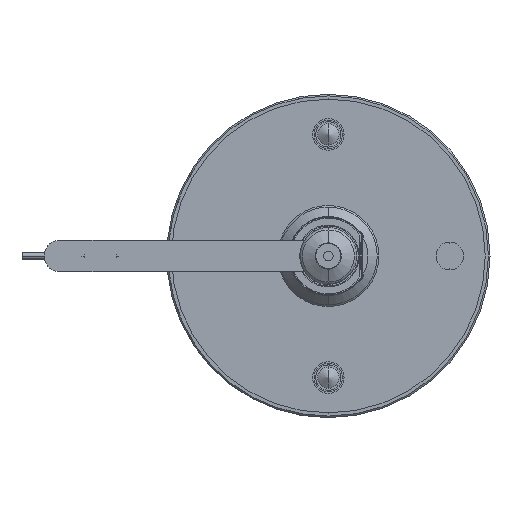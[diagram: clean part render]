
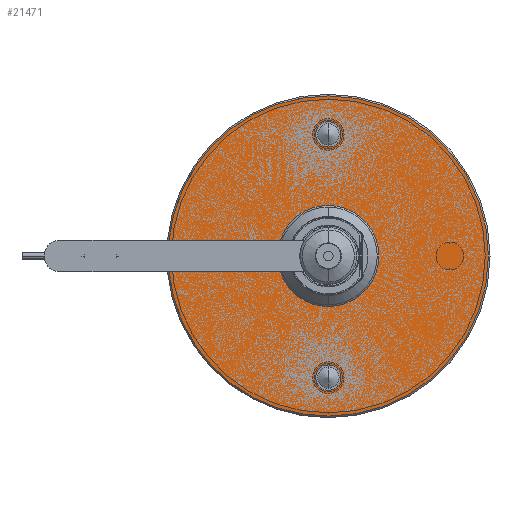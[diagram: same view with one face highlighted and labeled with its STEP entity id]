
A CAD part, front view. The second image highlights one B-rep face of the part: STEP entity #21471.
In plain terms, the highlighted planar face has unit normal (0, -1, 0).
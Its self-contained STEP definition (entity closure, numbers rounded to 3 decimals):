
#437 = EDGE_CURVE ( 'NONE', #11937, #3138, #23549, .T. ) ;
#842 = VECTOR ( 'NONE', #20676, 1000. ) ;
#1283 = EDGE_LOOP ( 'NONE', ( #20259, #2513, #19792, #15354, #1764, #14132, #1385, #19518 ) ) ;
#1385 = ORIENTED_EDGE ( 'NONE', *, *, #4949, .F. ) ;
#1641 = VERTEX_POINT ( 'NONE', #8212 ) ;
#1671 = VERTEX_POINT ( 'NONE', #6217 ) ;
#1764 = ORIENTED_EDGE ( 'NONE', *, *, #5768, .F. ) ;
#1954 = EDGE_CURVE ( 'NONE', #14469, #13336, #2814, .T. ) ;
#2080 = LINE ( 'NONE', #9669, #842 ) ;
#2332 = FACE_BOUND ( 'NONE', #14749, .T. ) ;
#2513 = ORIENTED_EDGE ( 'NONE', *, *, #3082, .T. ) ;
#2561 = DIRECTION ( 'NONE',  ( 0., -1., 0. ) ) ;
#2814 = CIRCLE ( 'NONE', #22781, 16. ) ;
#2880 = EDGE_CURVE ( 'NONE', #7173, #11901, #2080, .T. ) ;
#3082 = EDGE_CURVE ( 'NONE', #21057, #11567, #24406, .T. ) ;
#3138 = VERTEX_POINT ( 'NONE', #6025 ) ;
#3184 = DIRECTION ( 'NONE',  ( 0., 0., 1. ) ) ;
#3300 = CARTESIAN_POINT ( 'NONE',  ( 0., 38.122, -38.5 ) ) ;
#3535 = DIRECTION ( 'NONE',  ( 0., 0., -1. ) ) ;
#4918 = CARTESIAN_POINT ( 'NONE',  ( -50.7, 38.122, 0. ) ) ;
#4949 = EDGE_CURVE ( 'NONE', #23321, #14469, #19071, .T. ) ;
#5253 = EDGE_CURVE ( 'NONE', #1641, #14925, #7103, .T. ) ;
#5396 = DIRECTION ( 'NONE',  ( 0., 0., -1. ) ) ;
#5496 = EDGE_CURVE ( 'NONE', #14925, #1641, #9909, .T. ) ;
#5500 = VECTOR ( 'NONE', #24119, 1000. ) ;
#5516 = CARTESIAN_POINT ( 'NONE',  ( 0., 38.122, 0. ) ) ;
#5657 = DIRECTION ( 'NONE',  ( 0., 0., 1. ) ) ;
#5768 = EDGE_CURVE ( 'NONE', #13336, #11901, #18302, .T. ) ;
#6025 = CARTESIAN_POINT ( 'NONE',  ( 0., 38.122, -34.5 ) ) ;
#6197 = DIRECTION ( 'NONE',  ( 0., 0., -1. ) ) ;
#6217 = CARTESIAN_POINT ( 'NONE',  ( -50.453, 38.122, -5. ) ) ;
#6839 = AXIS2_PLACEMENT_3D ( 'NONE', #7168, #14778, #3535 ) ;
#7103 = CIRCLE ( 'NONE', #19487, 4. ) ;
#7108 = LINE ( 'NONE', #9212, #5500 ) ;
#7168 = CARTESIAN_POINT ( 'NONE',  ( 0., 38.122, 0. ) ) ;
#7173 = VERTEX_POINT ( 'NONE', #9727 ) ;
#7257 = DIRECTION ( 'NONE',  ( 0., 0., 1. ) ) ;
#7350 = DIRECTION ( 'NONE',  ( 0., 0., 1. ) ) ;
#7524 = AXIS2_PLACEMENT_3D ( 'NONE', #9795, #24570, #17313 ) ;
#8077 = CARTESIAN_POINT ( 'NONE',  ( 0., 38.122, 0. ) ) ;
#8212 = CARTESIAN_POINT ( 'NONE',  ( 0., 38.122, 42.5 ) ) ;
#8340 = AXIS2_PLACEMENT_3D ( 'NONE', #3300, #10641, #14647 ) ;
#8581 = AXIS2_PLACEMENT_3D ( 'NONE', #4918, #12631, #3184 ) ;
#8790 = CARTESIAN_POINT ( 'NONE',  ( 0., 38.122, -42.5 ) ) ;
#9212 = CARTESIAN_POINT ( 'NONE',  ( -50.7, 38.122, -5. ) ) ;
#9669 = CARTESIAN_POINT ( 'NONE',  ( -50.7, 38.122, 5. ) ) ;
#9703 = AXIS2_PLACEMENT_3D ( 'NONE', #5516, #12877, #5396 ) ;
#9727 = CARTESIAN_POINT ( 'NONE',  ( -50.453, 38.122, 5. ) ) ;
#9789 = DIRECTION ( 'NONE',  ( 0., 0., -1. ) ) ;
#9795 = CARTESIAN_POINT ( 'NONE',  ( 0., 38.122, 0. ) ) ;
#9909 = CIRCLE ( 'NONE', #21894, 4. ) ;
#9925 = FACE_OUTER_BOUND ( 'NONE', #1283, .T. ) ;
#10274 = EDGE_CURVE ( 'NONE', #1671, #21057, #14079, .T. ) ;
#10401 = CIRCLE ( 'NONE', #12774, 50.7 ) ;
#10535 = ORIENTED_EDGE ( 'NONE', *, *, #12935, .F. ) ;
#10641 = DIRECTION ( 'NONE',  ( 0., -1., 0. ) ) ;
#11115 = EDGE_CURVE ( 'NONE', #1671, #23321, #7108, .T. ) ;
#11567 = VERTEX_POINT ( 'NONE', #23225 ) ;
#11901 = VERTEX_POINT ( 'NONE', #20411 ) ;
#11937 = VERTEX_POINT ( 'NONE', #8790 ) ;
#12631 = DIRECTION ( 'NONE',  ( 0., 1., 0. ) ) ;
#12754 = ORIENTED_EDGE ( 'NONE', *, *, #5253, .F. ) ;
#12774 = AXIS2_PLACEMENT_3D ( 'NONE', #19041, #17428, #9789 ) ;
#12877 = DIRECTION ( 'NONE',  ( 0., -1., 0. ) ) ;
#12935 = EDGE_CURVE ( 'NONE', #3138, #11937, #20740, .T. ) ;
#13336 = VERTEX_POINT ( 'NONE', #22644 ) ;
#14079 = CIRCLE ( 'NONE', #9703, 50.7 ) ;
#14132 = ORIENTED_EDGE ( 'NONE', *, *, #1954, .F. ) ;
#14469 = VERTEX_POINT ( 'NONE', #20419 ) ;
#14519 = EDGE_CURVE ( 'NONE', #11567, #7173, #10401, .T. ) ;
#14647 = DIRECTION ( 'NONE',  ( 0., 0., 1. ) ) ;
#14749 = EDGE_LOOP ( 'NONE', ( #10535, #22295 ) ) ;
#14778 = DIRECTION ( 'NONE',  ( 0., -1., 0. ) ) ;
#14925 = VERTEX_POINT ( 'NONE', #15885 ) ;
#14984 = DIRECTION ( 'NONE',  ( 0., -1., 0. ) ) ;
#15155 = AXIS2_PLACEMENT_3D ( 'NONE', #18917, #15162, #5657 ) ;
#15162 = DIRECTION ( 'NONE',  ( 0., -1., 0. ) ) ;
#15354 = ORIENTED_EDGE ( 'NONE', *, *, #2880, .T. ) ;
#15885 = CARTESIAN_POINT ( 'NONE',  ( 0., 38.122, 34.5 ) ) ;
#16856 = CARTESIAN_POINT ( 'NONE',  ( 0., 38.122, 38.5 ) ) ;
#17313 = DIRECTION ( 'NONE',  ( 0., 0., -1. ) ) ;
#17428 = DIRECTION ( 'NONE',  ( 0., -1., 0. ) ) ;
#17575 = PLANE ( 'NONE',  #8581 ) ;
#18163 = ORIENTED_EDGE ( 'NONE', *, *, #5496, .F. ) ;
#18302 = CIRCLE ( 'NONE', #7524, 16. ) ;
#18375 = CARTESIAN_POINT ( 'NONE',  ( 0., 38.122, 38.5 ) ) ;
#18917 = CARTESIAN_POINT ( 'NONE',  ( 0., 38.122, -38.5 ) ) ;
#19041 = CARTESIAN_POINT ( 'NONE',  ( 0., 38.122, 0. ) ) ;
#19071 = CIRCLE ( 'NONE', #23882, 16. ) ;
#19306 = DIRECTION ( 'NONE',  ( 0., 0., -1. ) ) ;
#19438 = FACE_BOUND ( 'NONE', #20033, .T. ) ;
#19487 = AXIS2_PLACEMENT_3D ( 'NONE', #18375, #14984, #7257 ) ;
#19518 = ORIENTED_EDGE ( 'NONE', *, *, #11115, .F. ) ;
#19792 = ORIENTED_EDGE ( 'NONE', *, *, #14519, .T. ) ;
#20033 = EDGE_LOOP ( 'NONE', ( #18163, #12754 ) ) ;
#20259 = ORIENTED_EDGE ( 'NONE', *, *, #10274, .T. ) ;
#20411 = CARTESIAN_POINT ( 'NONE',  ( -15.199, 38.122, 5. ) ) ;
#20419 = CARTESIAN_POINT ( 'NONE',  ( 0., 38.122, -16. ) ) ;
#20676 = DIRECTION ( 'NONE',  ( 1., 0., 0. ) ) ;
#20740 = CIRCLE ( 'NONE', #15155, 4. ) ;
#21057 = VERTEX_POINT ( 'NONE', #23841 ) ;
#21471 = ADVANCED_FACE ( 'NONE', ( #19438, #2332, #9925 ), #17575, .F. ) ;
#21894 = AXIS2_PLACEMENT_3D ( 'NONE', #16856, #24481, #7350 ) ;
#22295 = ORIENTED_EDGE ( 'NONE', *, *, #437, .F. ) ;
#22644 = CARTESIAN_POINT ( 'NONE',  ( 0., 38.122, 16. ) ) ;
#22781 = AXIS2_PLACEMENT_3D ( 'NONE', #23307, #2561, #19306 ) ;
#23039 = CARTESIAN_POINT ( 'NONE',  ( -15.199, 38.122, -5. ) ) ;
#23225 = CARTESIAN_POINT ( 'NONE',  ( 0., 38.122, 50.7 ) ) ;
#23307 = CARTESIAN_POINT ( 'NONE',  ( 0., 38.122, 0. ) ) ;
#23321 = VERTEX_POINT ( 'NONE', #23039 ) ;
#23332 = DIRECTION ( 'NONE',  ( 0., -1., 0. ) ) ;
#23549 = CIRCLE ( 'NONE', #8340, 4. ) ;
#23841 = CARTESIAN_POINT ( 'NONE',  ( 0., 38.122, -50.7 ) ) ;
#23882 = AXIS2_PLACEMENT_3D ( 'NONE', #8077, #23332, #6197 ) ;
#24119 = DIRECTION ( 'NONE',  ( 1., 0., 0. ) ) ;
#24406 = CIRCLE ( 'NONE', #6839, 50.7 ) ;
#24481 = DIRECTION ( 'NONE',  ( 0., -1., 0. ) ) ;
#24570 = DIRECTION ( 'NONE',  ( 0., -1., 0. ) ) ;
